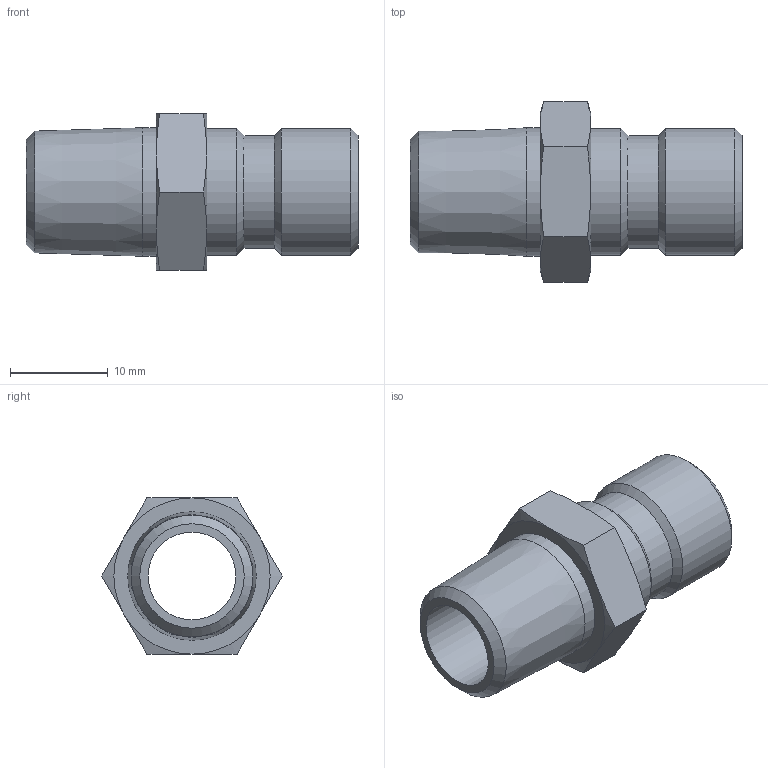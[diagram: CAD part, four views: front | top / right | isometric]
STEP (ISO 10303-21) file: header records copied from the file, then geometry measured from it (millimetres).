
FILE_DESCRIPTION(/* description */ ('STEP AP214'),/* implementation_level */ '2;1');
FILE_NAME(/* name */ 'N914A',/* time_stamp */ '2024-11-24T09:20:56+01:00',/* author */ ('License CC BY-ND 4.0'),/* organization */ ('CADENAS'),/* preprocessor_version */ 'ST-DEVELOPER v19.3',/* originating_system */ 'PARTsolutions',/* authorisation */ ' ');
FILE_SCHEMA (('AUTOMOTIVE_DESIGN {1 0 10303 214 3 1 1}'));
Length unit declared in the file: millimetre
Products named in the file (1): N914A
Bounding box: 34 x 18.48 x 16 mm (x, y, z)
Volume: 2625.7 mm3; surface area: 2675.5 mm2
Topology: 1 solids, 1 shells, 32 faces, 65 edges, 37 vertices
Faces by surface type: cone 17, plane 10, cylinder 5
Full cylindrical faces by diameter (mm): 9 x1, 11.56 x1, 13 x2, 13.157 x1
Entity records: 830 total; most frequent: CARTESIAN_POINT 197, DIRECTION 122, ORIENTED_EDGE 110, AXIS2_PLACEMENT_3D 58, EDGE_CURVE 55, EDGE_LOOP 46, FACE_BOUND 46, VERTEX_POINT 37
